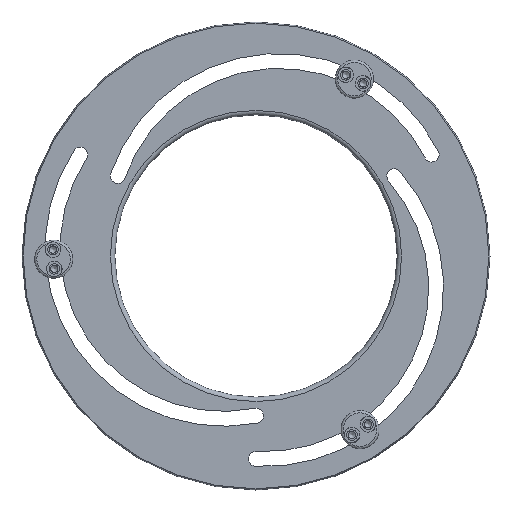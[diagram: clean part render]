
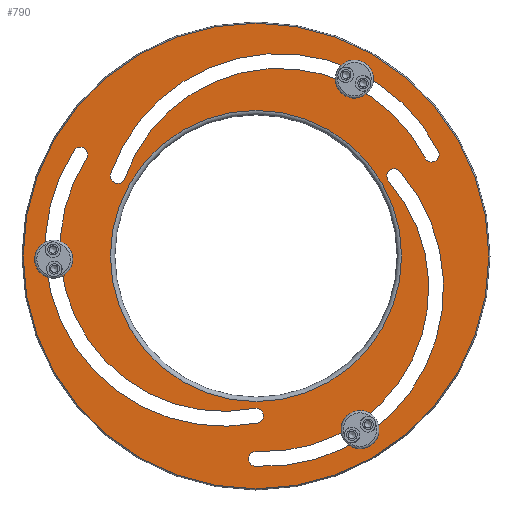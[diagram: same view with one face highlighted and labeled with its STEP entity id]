
A CAD part, front view. The second image highlights one B-rep face of the part: STEP entity #790.
In plain terms, the highlighted planar face has unit normal (0, -1, 0).
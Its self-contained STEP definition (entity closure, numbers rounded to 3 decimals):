
#54=FACE_BOUND('',#217,.T.);
#55=FACE_BOUND('',#218,.T.);
#56=FACE_BOUND('',#219,.T.);
#57=FACE_BOUND('',#220,.T.);
#70=PLANE('',#927);
#169=FACE_OUTER_BOUND('',#216,.T.);
#216=EDGE_LOOP('',(#557));
#217=EDGE_LOOP('',(#558,#559,#560,#561));
#218=EDGE_LOOP('',(#562,#563,#564,#565));
#219=EDGE_LOOP('',(#566,#567,#568,#569));
#220=EDGE_LOOP('',(#570));
#279=CIRCLE('',#922,98.);
#283=CIRCLE('',#928,156.736);
#284=CIRCLE('',#929,5.);
#285=CIRCLE('',#930,110.);
#286=CIRCLE('',#931,5.);
#287=CIRCLE('',#932,120.);
#288=CIRCLE('',#933,5.);
#289=CIRCLE('',#934,120.);
#290=CIRCLE('',#935,5.);
#291=CIRCLE('',#936,110.);
#292=CIRCLE('',#937,5.);
#293=CIRCLE('',#938,120.);
#294=CIRCLE('',#939,5.);
#295=CIRCLE('',#940,110.);
#359=VERTEX_POINT('',#1367);
#362=VERTEX_POINT('',#1378);
#363=VERTEX_POINT('',#1380);
#364=VERTEX_POINT('',#1381);
#365=VERTEX_POINT('',#1383);
#366=VERTEX_POINT('',#1385);
#367=VERTEX_POINT('',#1388);
#368=VERTEX_POINT('',#1389);
#369=VERTEX_POINT('',#1391);
#370=VERTEX_POINT('',#1393);
#371=VERTEX_POINT('',#1396);
#372=VERTEX_POINT('',#1397);
#373=VERTEX_POINT('',#1399);
#374=VERTEX_POINT('',#1401);
#435=EDGE_CURVE('',#359,#359,#279,.T.);
#440=EDGE_CURVE('',#362,#362,#283,.T.);
#441=EDGE_CURVE('',#363,#364,#284,.T.);
#442=EDGE_CURVE('',#364,#365,#285,.T.);
#443=EDGE_CURVE('',#365,#366,#286,.T.);
#444=EDGE_CURVE('',#366,#363,#287,.T.);
#445=EDGE_CURVE('',#367,#368,#288,.T.);
#446=EDGE_CURVE('',#368,#369,#289,.T.);
#447=EDGE_CURVE('',#369,#370,#290,.T.);
#448=EDGE_CURVE('',#370,#367,#291,.T.);
#449=EDGE_CURVE('',#371,#372,#292,.T.);
#450=EDGE_CURVE('',#372,#373,#293,.T.);
#451=EDGE_CURVE('',#373,#374,#294,.T.);
#452=EDGE_CURVE('',#374,#371,#295,.T.);
#557=ORIENTED_EDGE('',*,*,#440,.F.);
#558=ORIENTED_EDGE('',*,*,#441,.T.);
#559=ORIENTED_EDGE('',*,*,#442,.T.);
#560=ORIENTED_EDGE('',*,*,#443,.T.);
#561=ORIENTED_EDGE('',*,*,#444,.T.);
#562=ORIENTED_EDGE('',*,*,#445,.T.);
#563=ORIENTED_EDGE('',*,*,#446,.T.);
#564=ORIENTED_EDGE('',*,*,#447,.T.);
#565=ORIENTED_EDGE('',*,*,#448,.T.);
#566=ORIENTED_EDGE('',*,*,#449,.T.);
#567=ORIENTED_EDGE('',*,*,#450,.T.);
#568=ORIENTED_EDGE('',*,*,#451,.T.);
#569=ORIENTED_EDGE('',*,*,#452,.T.);
#570=ORIENTED_EDGE('',*,*,#435,.F.);
#790=ADVANCED_FACE('',(#169,#54,#55,#56,#57),#70,.T.);
#922=AXIS2_PLACEMENT_3D('',#1369,#1065,#1066);
#927=AXIS2_PLACEMENT_3D('',#1377,#1076,#1077);
#928=AXIS2_PLACEMENT_3D('',#1379,#1078,#1079);
#929=AXIS2_PLACEMENT_3D('',#1382,#1080,#1081);
#930=AXIS2_PLACEMENT_3D('',#1384,#1082,#1083);
#931=AXIS2_PLACEMENT_3D('',#1386,#1084,#1085);
#932=AXIS2_PLACEMENT_3D('',#1387,#1086,#1087);
#933=AXIS2_PLACEMENT_3D('',#1390,#1088,#1089);
#934=AXIS2_PLACEMENT_3D('',#1392,#1090,#1091);
#935=AXIS2_PLACEMENT_3D('',#1394,#1092,#1093);
#936=AXIS2_PLACEMENT_3D('',#1395,#1094,#1095);
#937=AXIS2_PLACEMENT_3D('',#1398,#1096,#1097);
#938=AXIS2_PLACEMENT_3D('',#1400,#1098,#1099);
#939=AXIS2_PLACEMENT_3D('',#1402,#1100,#1101);
#940=AXIS2_PLACEMENT_3D('',#1403,#1102,#1103);
#1065=DIRECTION('center_axis',(0.,-1.,0.));
#1066=DIRECTION('ref_axis',(1.,0.,0.));
#1076=DIRECTION('center_axis',(0.,-1.,0.));
#1077=DIRECTION('ref_axis',(0.,0.,-1.));
#1078=DIRECTION('center_axis',(0.,1.,0.));
#1079=DIRECTION('ref_axis',(0.,0.,-1.));
#1080=DIRECTION('center_axis',(0.,1.,0.));
#1081=DIRECTION('ref_axis',(-0.837,0.,0.547));
#1082=DIRECTION('center_axis',(0.,-1.,0.));
#1083=DIRECTION('ref_axis',(-0.191,0.,0.982));
#1084=DIRECTION('center_axis',(0.,1.,0.));
#1085=DIRECTION('ref_axis',(-0.191,0.,0.982));
#1086=DIRECTION('center_axis',(0.,1.,0.));
#1087=DIRECTION('ref_axis',(0.191,0.,-0.982));
#1088=DIRECTION('center_axis',(0.,1.,0.));
#1089=DIRECTION('ref_axis',(0.945,0.,-0.326));
#1090=DIRECTION('center_axis',(0.,1.,0.));
#1091=DIRECTION('ref_axis',(-0.945,0.,0.326));
#1092=DIRECTION('center_axis',(0.,1.,0.));
#1093=DIRECTION('ref_axis',(0.892,0.,0.452));
#1094=DIRECTION('center_axis',(0.,-1.,0.));
#1095=DIRECTION('ref_axis',(0.945,0.,-0.326));
#1096=DIRECTION('center_axis',(0.,1.,0.));
#1097=DIRECTION('ref_axis',(-0.755,0.,-0.656));
#1098=DIRECTION('center_axis',(0.,1.,0.));
#1099=DIRECTION('ref_axis',(0.755,0.,0.656));
#1100=DIRECTION('center_axis',(0.,1.,0.));
#1101=DIRECTION('ref_axis',(-0.055,0.,-0.999));
#1102=DIRECTION('center_axis',(0.,-1.,0.));
#1103=DIRECTION('ref_axis',(-0.755,0.,-0.656));
#1367=CARTESIAN_POINT('',(0.,-7.5,98.));
#1369=CARTESIAN_POINT('Origin',(0.,-7.5,0.));
#1377=CARTESIAN_POINT('Origin',(-5.713,-7.5,-2.385));
#1378=CARTESIAN_POINT('',(0.,-7.5,156.736));
#1379=CARTESIAN_POINT('Origin',(0.,-7.5,0.));
#1380=CARTESIAN_POINT('',(-122.4,-7.5,70.983));
#1381=CARTESIAN_POINT('',(-114.025,-7.5,65.517));
#1382=CARTESIAN_POINT('Origin',(-118.212,-7.5,68.25));
#1383=CARTESIAN_POINT('',(-0.953,-7.5,-102.592));
#1384=CARTESIAN_POINT('Origin',(-21.911,-7.5,5.393));
#1385=CARTESIAN_POINT('',(0.953,-7.5,-112.408));
#1386=CARTESIAN_POINT('Origin',(0.,-7.5,-107.5));
#1387=CARTESIAN_POINT('Origin',(-21.911,-7.5,5.393));
#1388=CARTESIAN_POINT('',(-88.371,-7.5,52.121));
#1389=CARTESIAN_POINT('',(-97.825,-7.5,55.379));
#1390=CARTESIAN_POINT('Origin',(-93.098,-7.5,53.75));
#1391=CARTESIAN_POINT('',(122.673,-7.5,70.51));
#1392=CARTESIAN_POINT('Origin',(15.626,-7.5,16.278));
#1393=CARTESIAN_POINT('',(113.752,-7.5,65.99));
#1394=CARTESIAN_POINT('Origin',(118.212,-7.5,68.25));
#1395=CARTESIAN_POINT('Origin',(15.626,-7.5,16.278));
#1396=CARTESIAN_POINT('',(89.323,-7.5,50.471));
#1397=CARTESIAN_POINT('',(96.872,-7.5,57.029));
#1398=CARTESIAN_POINT('Origin',(93.098,-7.5,53.75));
#1399=CARTESIAN_POINT('',(-0.273,-7.5,-141.493));
#1400=CARTESIAN_POINT('Origin',(6.284,-7.5,-21.672));
#1401=CARTESIAN_POINT('',(0.273,-7.5,-131.507));
#1402=CARTESIAN_POINT('Origin',(0.,-7.5,-136.5));
#1403=CARTESIAN_POINT('Origin',(6.284,-7.5,-21.672));
